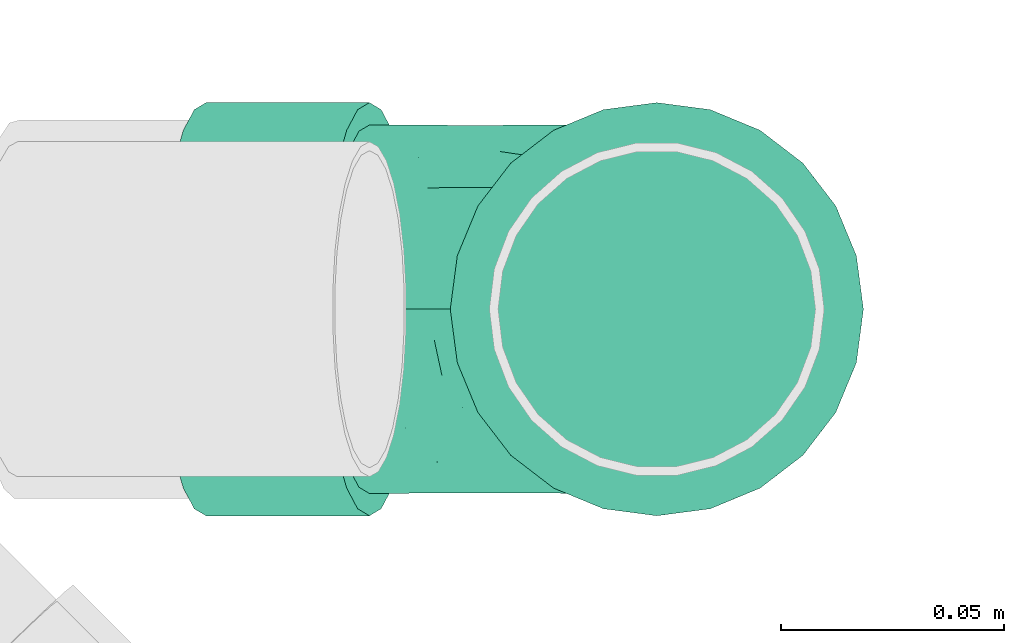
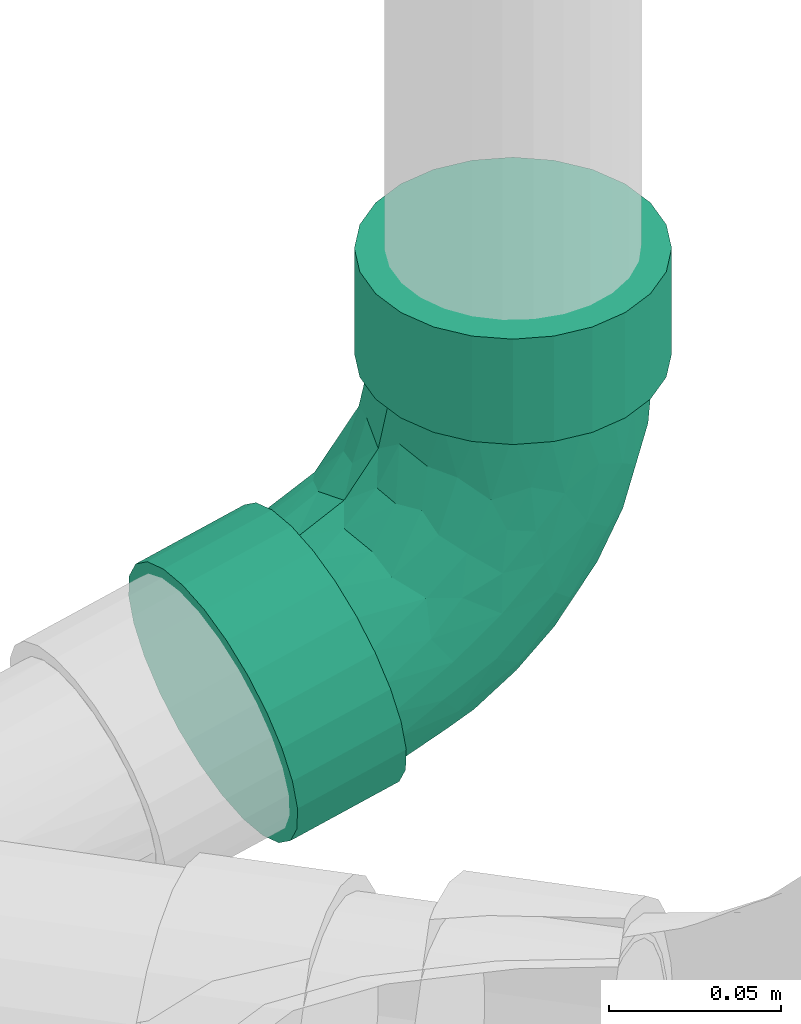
# One storey, part 65 of 83: 1 flow fitting.
"""IFC2X3 building model written with IfcOpenShell, lengths in millimetres."""

import ifcopenshell
import ifcopenshell.guid

model = None  # the IFC model being written
_history = None  # IfcOwnerHistory: only IFC2X3 demands one
_inside = {}  # id of a spatial element -> (the spatial element, [elements in it])
_under = {}  # id of a project, library or spatial element -> (it, [spatial elements below it])
_declared = {}  # id of a project -> (the project, [libraries it declares])
_typed = {}  # id of a type object -> (the type object, [elements of that type])
_made_of = {}  # id of a material, layer set ... -> (it, [elements and type objects made of it])


def new_model(schema):
    """Start an empty IFC model of exactly this schema.

    Asked for "IFC4X3", IfcOpenShell would pick the latest addendum, in which some entities
    have other attributes; the version numbers below select the first issue.
    IFC2X3 requires an IfcOwnerHistory on every rooted entity: one is made here for all.
    """
    global model, _history
    if schema == "IFC4X3":
        model = ifcopenshell.file(schema_version=(4, 3, 0, 0))
    else:
        model = ifcopenshell.file(schema=schema)
    _inside.clear()
    _under.clear()
    _declared.clear()
    _typed.clear()
    _made_of.clear()
    _history = None
    if model.schema == "IFC2X3":
        org = make("IfcOrganization", Name="unknown")
        user = make(
            "IfcPersonAndOrganization",
            ThePerson=make("IfcPerson", FamilyName="unknown"),
            TheOrganization=org,
        )
        app = make(
            "IfcApplication",
            ApplicationDeveloper=org,
            Version="unknown",
            ApplicationFullName="unknown",
            ApplicationIdentifier="unknown",
        )
        _history = make(
            "IfcOwnerHistory",
            OwningUser=user,
            OwningApplication=app,
            ChangeAction="ADDED",
            CreationDate=0,
        )
    return model


def make(cls, **values):
    """One entity of the class cls with the attributes given. An attribute that is None is left unset."""
    return model.create_entity(
        cls, **{name: value for name, value in values.items() if value is not None}
    )


def entity(cls, *values):
    """Any entity or typed value of the class cls, its attributes in the order of the schema. None: left unset."""
    e = model.create_entity(cls)
    for i, value in enumerate(values):
        if value is not None:
            e[i] = value
    return e


def rooted(cls, **values):
    """An entity with a GlobalId (a new one), such as an element, a storey or a relation."""
    return make(cls, GlobalId=ifcopenshell.guid.new(), OwnerHistory=_history, **values)


def si_unit(unit_type, name, prefix=None):
    """IfcSIUnit, for example si_unit("LENGTHUNIT", "METRE", prefix="MILLI")."""
    return make("IfcSIUnit", UnitType=unit_type, Prefix=prefix, Name=name)


def converted_unit(unit_type, name, factor, base, dimensions=None, offset=None):
    """IfcConversionBasedUnit, such as the inch: factor (a typed value) times the base unit."""
    return make(
        "IfcConversionBasedUnit"
        if offset is None
        else "IfcConversionBasedUnitWithOffset",
        ConversionOffset=offset,
        Dimensions=None
        if dimensions is None
        else entity("IfcDimensionalExponents", *dimensions),
        UnitType=unit_type,
        Name=name,
        ConversionFactor=make(
            "IfcMeasureWithUnit", ValueComponent=factor, UnitComponent=base
        ),
    )


def derived_unit(unit_type, elements):
    """IfcDerivedUnit: a product of units, each with its exponent."""
    return make(
        "IfcDerivedUnit",
        Elements=[
            make("IfcDerivedUnitElement", Unit=unit, Exponent=power)
            for unit, power in elements
        ],
        UnitType=unit_type,
    )


def assignment(units):
    """IfcUnitAssignment: the units of a project."""
    return None if units is None else make("IfcUnitAssignment", Units=units)


def point(xyz):
    """IfcCartesianPoint."""
    return None if xyz is None else make("IfcCartesianPoint", Coordinates=xyz)


def direction(xyz):
    """IfcDirection."""
    return None if xyz is None else make("IfcDirection", DirectionRatios=xyz)


def frame(location, z_axis=None, x_axis=None):
    """IfcAxis2Placement3D, a coordinate frame: its origin and axes. An axis left out is left unset."""
    return make(
        "IfcAxis2Placement3D",
        Location=point(location),
        Axis=direction(z_axis),
        RefDirection=direction(x_axis),
    )


def origin_with_axes():
    """The frame at (0, 0, 0) with the z axis (0, 0, 1) and the x axis (1, 0, 0) written out."""
    return frame((0.0, 0.0, 0.0), z_axis=(0.0, 0.0, 1.0), x_axis=(1.0, 0.0, 0.0))


def place(relative_to, where):
    """IfcLocalPlacement: puts the frame where relative to a parent placement (None: the world)."""
    return make(
        "IfcLocalPlacement", PlacementRelTo=relative_to, RelativePlacement=where
    )


def context(
    kind, dimensions, precision=None, world=None, true_north=None, identifier=None
):
    """IfcGeometricRepresentationContext, for example the 3D "Model" context."""
    return make(
        "IfcGeometricRepresentationContext",
        ContextIdentifier=identifier,
        ContextType=kind,
        CoordinateSpaceDimension=dimensions,
        Precision=precision,
        WorldCoordinateSystem=world,
        TrueNorth=true_north,
    )


def subcontext(parent, identifier, kind, view, scale=None):
    """IfcGeometricRepresentationSubContext, for example "Body" below "Model"."""
    return make(
        "IfcGeometricRepresentationSubContext",
        ContextIdentifier=identifier,
        ContextType=kind,
        ParentContext=parent,
        TargetScale=scale,
        TargetView=view,
    )


def project(units=None, contexts=None):
    """IfcProject with its units and contexts."""
    return rooted(
        "IfcProject",
        Name="project",
        RepresentationContexts=contexts,
        UnitsInContext=assignment(units),
    )


def spatial(cls, under=None, at=None, **own):
    """A site, building, storey or space (cls), placed at a placement, below another one or the project."""
    s = rooted(cls, ObjectPlacement=at, **own)
    if under is not None:
        _under.setdefault(under.id(), (under, []))[1].append(s)
    return s


def faces_of(points, faces, orient=None, outer=None):
    """IfcFace entities. A face is a list of loops; a loop is a list of indices into points, from 0.

    orient and outer hold one flag for each loop. By default every Orientation is true, the
    first loop of a face is its IfcFaceOuterBound and the others are IfcFaceBound.
    """
    made = []
    for i, loops in enumerate(faces):
        bounds = []
        for j, loop in enumerate(loops):
            is_outer = j == 0 if outer is None else outer[i][j]
            bounds.append(
                make(
                    "IfcFaceOuterBound" if is_outer else "IfcFaceBound",
                    Bound=make("IfcPolyLoop", Polygon=[points[k] for k in loop]),
                    Orientation=True if orient is None else orient[i][j],
                )
            )
        made.append(make("IfcFace", Bounds=bounds))
    return made


def open_shell(faces, orient=None, outer=None):
    """The faces of one IfcOpenShell. surface_model builds it on its shared points."""
    return ("IfcOpenShell", faces, orient, outer)


def surface_model(cls, points, shells):
    """IfcFaceBasedSurfaceModel or IfcShellBasedSurfaceModel (cls): surfaces that need not close."""
    shared = [point(p) for p in points]
    made = [make(c, CfsFaces=faces_of(shared, fs, o, b)) for c, fs, o, b in shells]
    if cls == "IfcFaceBasedSurfaceModel":
        return make(cls, FbsmFaces=made)
    return make(cls, SbsmBoundary=made)


def shape(context_of_items, identifier, shape_type, items):
    """IfcShapeRepresentation: the items that make up one representation, for example the "Body"."""
    return make(
        "IfcShapeRepresentation",
        ContextOfItems=context_of_items,
        RepresentationIdentifier=identifier,
        RepresentationType=shape_type,
        Items=items,
    )


def source(mapping_origin, context_of_items, identifier, shape_type, items):
    """IfcRepresentationMap: a shape defined once, which mapped items show again and again."""
    return make(
        "IfcRepresentationMap",
        MappingOrigin=mapping_origin,
        MappedRepresentation=shape(context_of_items, identifier, shape_type, items),
    )


def transform(
    local_origin,
    x_axis=None,
    y_axis=None,
    z_axis=None,
    scale=None,
    scale2=None,
    scale3=None,
    uniform=True,
):
    """IfcCartesianTransformationOperator3D, or its non-uniform kind. x_axis, y_axis, z_axis: its Axis1, 2, 3."""
    if uniform:
        return make(
            "IfcCartesianTransformationOperator3D",
            Axis1=direction(x_axis),
            Axis2=direction(y_axis),
            LocalOrigin=point(local_origin),
            Scale=scale,
            Axis3=direction(z_axis),
        )
    return make(
        "IfcCartesianTransformationOperator3DnonUniform",
        Axis1=direction(x_axis),
        Axis2=direction(y_axis),
        LocalOrigin=point(local_origin),
        Scale=scale,
        Axis3=direction(z_axis),
        Scale2=scale2,
        Scale3=scale3,
    )


def mapped(mapping_source, mapping_target):
    """IfcMappedItem: shows the shape of a source again, moved by a transform."""
    return make(
        "IfcMappedItem", MappingSource=mapping_source, MappingTarget=mapping_target
    )


def made_of(thing, what):
    """Note that an element or type object is made of a material, layer set ...; save() writes the relation."""
    if what is not None:
        _made_of.setdefault(what.id(), (what, []))[1].append(thing)
    return thing


def type_object(cls, material=None, **own):
    """A type object (cls), such as IfcWallType, which elements share."""
    return made_of(rooted(cls, **own), material)


def element(
    cls,
    number,
    at=None,
    inside=None,
    cuts=None,
    type_object=None,
    material=None,
    context=None,
    identifier="Body",
    shape_type=None,
    held_by="IfcProductDefinitionShape",
    body=None,
    shapes=None,
    **own,
):
    """One element of the class cls, such as IfcWall. Its Tag is "e" and its number.

    at: its placement. inside: the storey or other place that contains it. cuts: it is an
    opening in that element (IfcRelVoidsElement). A single representation is given by context,
    identifier, shape_type and body (its items); several are given by shapes. held_by: the class
    of the entity that holds the representations. save() writes the other relations.
    """
    e = rooted(cls, Tag="e%d" % number, ObjectPlacement=at, **own)
    if body is not None:
        shapes = [shape(context, identifier, shape_type, body)]
    if shapes is not None:
        e.Representation = make(held_by, Representations=shapes)
    if inside is not None:
        _inside.setdefault(inside.id(), (inside, []))[1].append(e)
    if cuts is not None:
        rooted(
            "IfcRelVoidsElement", RelatingBuildingElement=cuts, RelatedOpeningElement=e
        )
    if type_object is not None:
        _typed.setdefault(type_object.id(), (type_object, []))[1].append(e)
    return made_of(e, material)


def aggregate(whole, parts):
    """IfcRelAggregates: a whole, such as a stair, and the parts it consists of."""
    return rooted("IfcRelAggregates", RelatingObject=whole, RelatedObjects=parts)


def save(model, path):
    """Write the relations noted so far, then the file.

    IfcRelAggregates (storeys below a building ...), IfcRelContainedInSpatialStructure (elements
    in a storey), IfcRelDefinesByType, IfcRelAssociatesMaterial and IfcRelDeclares: one each for
    every whole, place, type object, material and project.
    """
    for whole, parts in _under.values():
        aggregate(whole, parts)
    for where, things in _inside.values():
        rooted(
            "IfcRelContainedInSpatialStructure",
            RelatedElements=things,
            RelatingStructure=where,
        )
    for kind, things in _typed.values():
        rooted("IfcRelDefinesByType", RelatedObjects=things, RelatingType=kind)
    for what, things in _made_of.values():
        rooted("IfcRelAssociatesMaterial", RelatedObjects=things, RelatingMaterial=what)
    for by, libraries in _declared.values():
        rooted("IfcRelDeclares", RelatingContext=by, RelatedDefinitions=libraries)
    model.write(path)


model = new_model("IFC2X3")

# Units and contexts
model_context = context("Model", 3, precision=0.01, world=frame((0.0, 4.29681676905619e-09, 0.0)), true_north=direction((4.01073788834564e-13, 1.0)))
plan_context = context("Plan", 3, precision=0.01, world=frame((0.0, 4.29681676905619e-09, 0.0)), true_north=direction((4.01073788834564e-13, 1.0)))
body_context = subcontext(model_context, "Body", "Model", "MODEL_VIEW")
ifc_project = project(units=[converted_unit("PLANEANGLEUNIT", "DEGREE", entity("IfcPositiveLengthMeasure", 0.0174532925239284), si_unit("PLANEANGLEUNIT", "RADIAN"), dimensions=[0, 0, 0, 0, 0, 0, 0]), si_unit("AREAUNIT", "SQUARE_METRE"), si_unit("LENGTHUNIT", "METRE", prefix="MILLI"), si_unit("MASSUNIT", "GRAM", prefix="KILO"), si_unit("POWERUNIT", "WATT"), si_unit("PRESSUREUNIT", "PASCAL"), si_unit("FORCEUNIT", "NEWTON", prefix="KILO"), si_unit("ELECTRICVOLTAGEUNIT", "VOLT"), si_unit("ELECTRICCURRENTUNIT", "AMPERE"), si_unit("THERMODYNAMICTEMPERATUREUNIT", "DEGREE_CELSIUS"), si_unit("TIMEUNIT", "SECOND"), si_unit("VOLUMEUNIT", "CUBIC_METRE"), derived_unit("LINEARVELOCITYUNIT", [(si_unit("LENGTHUNIT", "METRE"), 1), (si_unit("TIMEUNIT", "SECOND"), -1)]), derived_unit("VOLUMETRICFLOWRATEUNIT", [(si_unit("VOLUMEUNIT", "CUBIC_METRE"), 1), (si_unit("TIMEUNIT", "SECOND"), -1)]), derived_unit("THERMALTRANSMITTANCEUNIT", [(si_unit("POWERUNIT", "WATT"), 1), (si_unit("THERMODYNAMICTEMPERATUREUNIT", "KELVIN"), -1), (si_unit("AREAUNIT", "SQUARE_METRE"), -1)]), derived_unit("SOUNDPRESSUREUNIT", [(si_unit("PRESSUREUNIT", "PASCAL"), 1)])], contexts=[model_context, plan_context])

# Site, building, storey
site_placement = place(None, frame((0.0, -4.29681676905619e-09, 0.0), z_axis=(0.0, 0.0, 1.0), x_axis=(1.0, 0.0, 0.0)))
site = spatial("IfcSite", under=ifc_project, at=site_placement, Name="ENGM", CompositionType="ELEMENT")
building_placement = place(site_placement, frame((0.0, 4.29681676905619e-09, 0.0), z_axis=(0.0, 0.0, 1.0), x_axis=(1.0, 0.0, 0.0)))
building = spatial("IfcBuilding", under=site, at=building_placement, Name="TI", CompositionType="ELEMENT")
storey_placement = place(building_placement, frame((0.0, 0.0, 204000.0), z_axis=(0.0, 0.0, 1.0), x_axis=(1.0, 0.0, 0.0)))
storey = spatial("IfcBuildingStorey", under=building, at=storey_placement, Name="Nivå D", CompositionType="ELEMENT", Elevation=204000.0)

# Flow fitting
pipe_fitting_type = type_object("IfcPipeFittingType", Name="magi_sewer_bend_001", PredefinedType="BEND")
shared_shape = source(origin_with_axes(), body_context, "Body", "SurfaceModel", [
    surface_model("IfcShellBasedSurfaceModel", [(-103.47293, -44.67407, -11.97038), (-103.47293, -11.97038, -44.67407), (-103.47293, -23.125, -40.05367), (-103.47293, -32.70369, -32.70369), (-103.47293, 0.0, -46.25), (-103.47293, -40.05367, -23.125), (-103.47293, -46.25, 0.0), (-103.47293, 11.97038, -44.67407), (-103.47293, 32.70369, -32.70369), (-103.47293, 23.125, -40.05367), (-103.47293, 44.67407, -11.97038), (-103.47293, 40.05367, -23.125), (-103.47293, -32.70369, 32.70369), (-103.47293, -44.67407, 11.97038), (-103.47293, -40.05367, 23.125), (-103.47293, 40.05367, 23.125), (-103.47293, -23.125, 40.05367), (-103.47293, -11.97038, 44.67407), (-103.47293, 0.0, 46.25), (-103.47293, 11.97038, 44.67407), (-103.47293, 44.67407, 11.97038), (-103.47293, 46.25, 0.0), (-103.47293, 23.125, 40.05367), (-103.47293, 32.70369, 32.70369), (-65.97293, 0.0, 46.25), (-65.97293, -11.97038, 44.67407), (-65.97293, -23.125, 40.05367), (-65.97293, -32.70369, 32.70369), (-65.97293, -40.05367, 23.125), (-65.97293, -44.67407, 11.97038), (-65.97293, 40.05367, 23.125), (-65.97293, -44.67407, -11.97038), (-65.97293, 23.125, 40.05367), (-65.97293, 32.70369, 32.70369), (-65.97293, 11.97038, 44.67407), (-65.97293, 44.67407, 11.97038), (-65.97293, 44.67407, -11.97038), (-65.97293, 46.25, 0.0), (-65.97293, -32.70369, -32.70369), (-65.97293, -40.05367, -23.125), (-65.97293, -23.125, -40.05367), (-65.97293, -11.97038, -44.67407), (-65.97293, 11.97038, -44.67407), (-65.97293, 32.70369, -32.70369), (-65.97293, 40.05367, -23.125), (-65.97293, 23.125, -40.05367), (-65.97293, 0.0, -46.25), (-65.97293, -46.25, 0.0), (-20.82656, 110.76404, 11.97038), (-16.31926, 109.74801, 23.125), (-9.14919, 108.13173, 32.70369), (11.07661, 103.57242, 44.67407), (-22.36391, 111.1106, 0.0), (0.19503, 106.02535, 40.05367), (22.75397, 100.9401, 46.25), (-16.31926, 109.74801, -23.125), (-20.82656, 110.76404, -11.97038), (-9.14919, 108.13173, -32.70369), (11.07661, 103.57242, -44.67407), (0.19503, 106.02535, -40.05367), (34.43134, 98.30778, 44.67407), (45.31291, 95.85485, 40.05367), (54.65713, 93.74847, 32.70369), (61.82721, 92.13219, 23.125), (66.3345, 91.11615, 11.97038), (67.87186, 90.7696, 0.0), (66.3345, 91.11615, -11.97038), (34.43134, 98.30778, -44.67407), (22.75397, 100.9401, -46.25), (45.31291, 95.85485, -40.05367), (54.65713, 93.74847, -32.70369), (61.82721, 92.13219, -23.125), (59.62551, 54.18753, 0.0), (58.08815, 54.53408, 11.97038), (53.58085, 55.55012, 23.125), (58.08815, 54.53408, -11.97038), (46.41078, 57.1664, 32.70369), (37.06656, 59.27278, 40.05367), (26.18499, 61.72571, 44.67407), (-29.07291, 74.18198, 11.97038), (37.06656, 59.27278, -40.05367), (2.83025, 66.99035, 44.67407), (53.58085, 55.55012, -23.125), (46.41078, 57.1664, -32.70369), (26.18499, 61.72571, -44.67407), (2.83025, 66.99035, -44.67407), (14.50762, 64.35803, -46.25), (-17.39554, 71.54966, 32.70369), (-8.05132, 69.44328, 40.05367), (-24.56561, 73.16594, 23.125), (-17.39554, 71.54966, -32.70369), (-8.05132, 69.44328, -40.05367), (-24.56561, 73.16594, -23.125), (-30.61026, 74.52853, 0.0), (-29.07291, 74.18198, -11.97038), (14.50762, 64.35803, 46.25), (-65.97293, 10.67629, -39.84444), (-65.97293, 0.0, -41.25), (-65.97293, 35.72355, -20.625), (-65.97293, 20.625, -35.72355), (-65.97293, -10.67629, -39.84444), (-65.97293, 29.16816, -29.16816), (-65.97293, 39.84444, -10.67629), (-65.97293, -29.16816, -29.16816), (-65.97293, -35.72355, -20.625), (-65.97293, -20.625, -35.72355), (-65.97293, -39.84444, -10.67629), (-65.97293, -41.25, 0.0), (-65.97293, -39.84444, 10.67629), (-65.97293, 41.25, 0.0), (-65.97293, 35.72355, 20.625), (-65.97293, 39.84444, 10.67629), (-65.97293, 10.67629, 39.84444), (-65.97293, 20.625, 35.72355), (-65.97293, 29.16816, 29.16816), (-65.97293, -35.72355, 20.625), (-65.97293, -29.16816, 29.16816), (-65.97293, -10.67629, 39.84444), (-65.97293, -20.625, 35.72355), (-65.97293, 0.0, 41.25), (4.09267, 66.70578, -39.84444), (34.62776, 59.82254, -35.72355), (14.50762, 64.35803, -41.25), (-20.34148, 72.21373, -20.625), (-5.61252, 68.89352, -35.72355), (53.37674, 55.59613, -10.67629), (-13.94655, 70.77218, -29.16816), (-24.3615, 73.11993, -10.67629), (49.35672, 56.50233, -20.625), (42.96179, 57.94387, -29.16816), (24.92257, 62.01029, -39.84444), (53.37674, 55.59613, 10.67629), (54.7479, 55.28705, 0.0), (-25.73265, 73.42902, 0.0), (-24.3615, 73.11993, 10.67629), (-20.34148, 72.21373, 20.625), (24.92257, 62.01029, 39.84444), (-5.61252, 68.89352, 35.72355), (4.09267, 66.70578, 39.84444), (-13.94655, 70.77218, 29.16816), (14.50762, 64.35803, 41.25), (42.96179, 57.94387, 29.16816), (49.35672, 56.50233, 20.625), (34.62776, 59.82254, 35.72355), (-1.25894, -22.05917, 8.00651), (-15.69238, -28.87814, 11.19589), (-17.68721, -30.21876, 0.0), (-32.98682, -36.77271, 0.0), (-41.89577, -36.53777, 13.58634), (-45.59727, -38.48436, 0.0), (11.67437, -6.20011, 21.201), (17.70635, 8.65851, 29.23513), (-1.1315, -9.3967, 28.34405), (-41.37636, -24.13717, 31.24029), (-20.3582, -20.03376, 28.60313), (-16.68498, -12.30898, 33.2924), (-49.15793, -32.45377, 23.82051), (-29.00026, -28.80033, 22.17818), (-43.32937, 36.17877, 27.28096), (-49.43742, -15.87493, 37.46771), (-42.57818, -4.62164, 40.52343), (-6.07988, -19.87772, 19.94034), (-47.92811, 26.21688, 33.97408), (-30.17279, 58.64502, 11.95333), (-28.0687, 55.67859, 20.02018), (14.76187, 42.80553, 40.56885), (1.98407, 40.57773, 41.16463), (-27.05807, 35.25731, 35.32917), (-46.65595, 5.75615, 41.11273), (-25.2422, 19.99904, 40.48671), (-29.60307, 9.20666, 41.24441), (-14.245, 17.81356, 41.24871), (15.83109, 21.59685, 36.35751), (0.68528, 17.58824, 39.88012), (-1.72878, 1.82069, 35.7188), (-38.1523, 47.70994, 16.15696), (-39.7686, 49.73114, 7.60921), (-50.57442, 42.33041, 11.95333), (-25.15098, 51.15292, 27.17806), (-48.20198, 39.55003, 20.10504), (-55.23334, 15.53516, 38.54966), (43.12647, 24.09294, 0.0), (43.87373, 30.50821, 13.35124), (31.3035, 8.24535, 10.54897), (31.91867, 33.26054, 31.11842), (31.02154, 15.93336, 21.6051), (41.23254, 37.18781, 23.51923), (25.46742, 41.99728, 37.34965), (47.56929, 36.01832, 0.0), (-29.53269, -12.26716, 36.59717), (-5.73116, 49.51558, 38.86631), (-14.64044, 53.3885, 33.91034), (-48.04197, 45.35107, 0.0), (-33.6764, 56.83881, 0.0), (-12.50098, 31.8021, 40.2972), (-18.31503, 2.32105, 39.81827), (-40.52354, 17.95076, 39.10957), (-29.51406, 26.13631, 38.2786), (10.61149, -13.26981, 0.0), (23.61058, -2.87481, 0.0), (10.2331, -12.79662, 11.82189), (-15.72209, -4.39571, 37.17381), (33.36853, 10.60907, 0.0), (-2.38759, -23.66481, 0.0), (-44.05874, 27.1896, -34.23831), (16.25629, 47.13382, -40.64964), (3.40991, 43.72176, -41.1396), (-30.00081, -1.61877, -40.25901), (-49.55487, -5.49352, -40.64964), (-43.40138, 6.28809, -41.1396), (30.95225, 31.00457, -30.96288), (-21.20513, -12.10181, -34.79237), (-37.05212, -23.37661, -30.96288), (-44.21887, -15.32798, -37.2512), (-16.83541, 48.95933, -34.23831), (-53.2363, 42.54115, -7.51114), (43.82596, 30.3985, -13.34008), (-39.84788, 49.83029, -6.89858), (-2.14704, -17.99945, -19.11436), (9.83691, -12.30119, -13.76569), (-12.90055, -27.78004, -10.51948), (-49.95239, 34.07952, -26.63524), (9.615, -6.99547, -22.38927), (-4.67318, -12.18439, -27.99561), (12.22425, 3.00669, -29.32766), (-47.66127, 16.37359, -38.84288), (-39.29184, -36.06847, -13.34008), (40.85102, 36.1425, -23.43132), (28.6234, 12.18813, -21.23345), (-5.49195, 50.0952, -38.84288), (-15.73239, 39.02523, -37.99491), (-44.24105, -31.90323, -23.43132), (8.1764, 28.91047, -40.25901), (-8.23418, 8.84829, -39.7324), (-8.00869, 27.47057, -41.16958), (-18.18415, -25.24255, -21.23345), (16.46864, 18.02485, -34.79237), (24.67663, 39.76581, -37.2512), (-32.6632, 15.64538, -40.50453), (-21.10821, 13.115, -41.24981), (-29.79302, 61.28809, -7.51114), (-0.85933, 1.0746, -35.04456), (-22.26066, 56.22383, -26.63524), (-27.28559, 58.24877, -18.55732), (29.00363, 5.38623, -10.69279), (-50.82277, 39.42675, -18.55732), (-33.17347, 41.48385, -28.33083), (-38.7445, 43.41927, -22.03859), (-28.38428, 35.4949, -34.69379), (-20.53901, -20.83106, -27.90539), (-38.46547, 48.10157, -14.92421), (-34.61037, 23.92904, -37.99491), (22.65722, 16.22421, -30.13354), (-21.21997, 26.53585, -39.79956)], [open_shell([[[0, 1, 2]], [[0, 2, 3]], [[1, 0, 4]], [[0, 3, 5]], [[4, 0, 6]], [[7, 8, 9]], [[8, 7, 4]], [[8, 10, 11]], [[10, 8, 4]], [[4, 6, 10]], [[6, 12, 10]], [[13, 14, 12]], [[10, 12, 15]], [[16, 17, 18]], [[16, 18, 12]], [[19, 12, 18]], [[10, 20, 21]], [[15, 20, 10]], [[15, 22, 23]], [[22, 15, 19]], [[12, 19, 15]], [[6, 13, 12]], [[24, 25, 26]], [[24, 26, 27]], [[27, 28, 29]], [[24, 27, 30]], [[27, 31, 30]], [[32, 30, 33]], [[30, 32, 34]], [[35, 36, 37]], [[30, 34, 24]], [[35, 30, 36]], [[27, 29, 31]], [[36, 30, 31]], [[38, 31, 39]], [[40, 41, 31]], [[40, 31, 38]], [[42, 31, 41]], [[36, 43, 44]], [[36, 31, 43]], [[43, 42, 45]], [[31, 42, 43]], [[41, 46, 42]], [[31, 29, 47]], [[36, 10, 37]], [[44, 11, 36]], [[9, 43, 45]], [[44, 43, 8]], [[7, 45, 42]], [[36, 11, 10]], [[10, 21, 37]], [[7, 9, 45]], [[8, 43, 9]], [[8, 11, 44]], [[4, 7, 42]], [[42, 46, 4]], [[46, 41, 1]], [[5, 39, 31]], [[39, 3, 38]], [[0, 31, 47]], [[1, 40, 2]], [[40, 1, 41]], [[40, 38, 2]], [[38, 3, 2]], [[39, 5, 3]], [[0, 5, 31]], [[47, 6, 0]], [[46, 1, 4]], [[29, 13, 47]], [[28, 14, 29]], [[16, 27, 26]], [[28, 27, 12]], [[17, 26, 25]], [[29, 14, 13]], [[13, 6, 47]], [[17, 16, 26]], [[12, 27, 16]], [[12, 14, 28]], [[18, 17, 25]], [[25, 24, 18]], [[33, 22, 32]], [[35, 15, 30]], [[33, 30, 23]], [[20, 35, 37]], [[32, 19, 34]], [[32, 22, 19]], [[19, 18, 34]], [[33, 23, 22]], [[30, 15, 23]], [[20, 15, 35]], [[37, 21, 20]], [[34, 18, 24]], [[48, 49, 50]], [[48, 50, 51]], [[48, 51, 52]], [[51, 50, 53]], [[52, 51, 54]], [[52, 55, 56]], [[55, 52, 57]], [[57, 58, 59]], [[58, 57, 52]], [[52, 54, 58]], [[54, 60, 58]], [[60, 61, 62]], [[60, 62, 63]], [[63, 64, 65]], [[60, 63, 66]], [[66, 63, 65]], [[58, 67, 68]], [[69, 67, 58]], [[70, 66, 71]], [[66, 70, 69]], [[60, 66, 69]], [[69, 58, 60]], [[72, 73, 74]], [[75, 72, 74]], [[76, 77, 78]], [[79, 80, 74]], [[76, 81, 74]], [[82, 80, 83]], [[80, 82, 75]], [[84, 85, 86]], [[80, 75, 74]], [[84, 80, 85]], [[81, 76, 78]], [[74, 81, 79]], [[87, 81, 88]], [[87, 89, 79]], [[87, 79, 81]], [[80, 79, 85]], [[85, 90, 91]], [[85, 79, 90]], [[92, 93, 94]], [[92, 90, 79]], [[93, 92, 79]], [[81, 78, 95]], [[85, 58, 86]], [[91, 59, 85]], [[55, 90, 92]], [[91, 90, 57]], [[56, 92, 94]], [[85, 59, 58]], [[58, 68, 86]], [[56, 55, 92]], [[57, 90, 55]], [[57, 59, 91]], [[52, 56, 94]], [[94, 93, 52]], [[93, 79, 48]], [[53, 88, 81]], [[88, 50, 87]], [[51, 81, 95]], [[48, 89, 49]], [[89, 48, 79]], [[89, 87, 49]], [[87, 50, 49]], [[88, 53, 50]], [[51, 53, 81]], [[95, 54, 51]], [[93, 48, 52]], [[78, 60, 95]], [[77, 61, 78]], [[63, 76, 74]], [[77, 76, 62]], [[64, 74, 73]], [[78, 61, 60]], [[60, 54, 95]], [[64, 63, 74]], [[62, 76, 63]], [[62, 61, 77]], [[65, 64, 73]], [[73, 72, 65]], [[83, 71, 82]], [[84, 69, 80]], [[83, 80, 70]], [[67, 84, 86]], [[82, 66, 75]], [[82, 71, 66]], [[66, 65, 75]], [[83, 70, 71]], [[80, 69, 70]], [[67, 69, 84]], [[86, 68, 67]], [[75, 65, 72]], [[96, 97, 98]], [[99, 96, 98]], [[100, 98, 97]], [[101, 99, 98]], [[102, 98, 100]], [[103, 104, 105]], [[100, 105, 104]], [[104, 106, 100]], [[106, 102, 100]], [[107, 108, 106]], [[109, 102, 106]], [[110, 111, 109]], [[108, 110, 106]], [[112, 113, 114]], [[108, 114, 110]], [[114, 108, 112]], [[115, 116, 108]], [[117, 108, 116]], [[118, 117, 116]], [[117, 112, 108]], [[117, 119, 112]], [[109, 106, 110]], [[120, 121, 122]], [[123, 120, 124]], [[125, 120, 123]], [[123, 124, 126]], [[125, 123, 127]], [[121, 128, 129]], [[121, 130, 122]], [[120, 128, 121]], [[125, 128, 120]], [[125, 131, 132]], [[125, 127, 133]], [[133, 134, 135]], [[136, 133, 135]], [[137, 138, 135]], [[137, 135, 139]], [[140, 135, 138]], [[131, 141, 142]], [[141, 131, 136]], [[141, 136, 143]], [[131, 133, 136]], [[135, 140, 136]], [[133, 131, 125]], [[144, 145, 146]], [[147, 148, 149]], [[150, 151, 152]], [[153, 154, 155]], [[156, 148, 157]], [[158, 110, 114]], [[115, 156, 116]], [[117, 159, 160]], [[154, 161, 152]], [[153, 118, 116]], [[117, 118, 159]], [[161, 157, 145]], [[114, 162, 158]], [[163, 164, 134]], [[165, 140, 166]], [[167, 158, 162]], [[148, 115, 108]], [[162, 114, 113]], [[112, 119, 168]], [[169, 170, 171]], [[172, 173, 174]], [[175, 176, 177]], [[178, 139, 135]], [[109, 111, 177]], [[175, 179, 158]], [[117, 160, 119]], [[112, 180, 113]], [[157, 148, 145]], [[153, 116, 156]], [[181, 182, 183]], [[184, 141, 143]], [[148, 108, 149]], [[183, 182, 185]], [[140, 165, 136]], [[142, 182, 131]], [[166, 140, 138]], [[154, 153, 157]], [[142, 186, 182]], [[151, 184, 172]], [[184, 143, 187]], [[186, 184, 185]], [[182, 188, 131]], [[159, 153, 189]], [[161, 154, 157]], [[167, 190, 191]], [[192, 176, 193]], [[187, 143, 136]], [[193, 163, 133]], [[194, 169, 171]], [[176, 163, 193]], [[164, 163, 175]], [[194, 166, 190]], [[138, 137, 190]], [[178, 175, 158]], [[173, 165, 166]], [[137, 191, 190]], [[190, 166, 138]], [[179, 175, 177]], [[167, 178, 158]], [[186, 142, 141]], [[145, 147, 146]], [[168, 119, 160]], [[195, 160, 189]], [[196, 170, 169]], [[180, 162, 113]], [[162, 196, 197]], [[137, 139, 191]], [[166, 194, 171]], [[173, 166, 171]], [[187, 165, 172]], [[198, 199, 200]], [[144, 198, 200]], [[183, 200, 199]], [[161, 150, 152]], [[160, 195, 170]], [[180, 168, 196]], [[139, 178, 191]], [[167, 191, 178]], [[184, 186, 141]], [[182, 186, 185]], [[201, 189, 155]], [[173, 171, 195]], [[192, 109, 177]], [[163, 176, 175]], [[192, 177, 176]], [[179, 111, 110]], [[111, 179, 177]], [[110, 158, 179]], [[175, 178, 164]], [[163, 134, 133]], [[178, 135, 164]], [[134, 164, 135]], [[165, 187, 136]], [[184, 187, 172]], [[174, 173, 195]], [[165, 173, 172]], [[189, 201, 195]], [[174, 152, 151]], [[190, 167, 194]], [[169, 197, 196]], [[183, 185, 150]], [[183, 202, 181]], [[144, 161, 145]], [[150, 161, 200]], [[183, 150, 200]], [[151, 150, 185]], [[184, 151, 185]], [[174, 151, 172]], [[148, 156, 115]], [[153, 156, 157]], [[153, 159, 118]], [[160, 159, 189]], [[197, 194, 167]], [[170, 196, 168]], [[160, 170, 168]], [[195, 171, 170]], [[194, 197, 169]], [[162, 197, 167]], [[108, 107, 149]], [[188, 182, 181]], [[188, 132, 131]], [[174, 201, 155]], [[168, 180, 112]], [[162, 180, 196]], [[147, 145, 148]], [[203, 144, 146]], [[161, 144, 200]], [[144, 203, 198]], [[189, 153, 155]], [[174, 195, 201]], [[154, 152, 155]], [[174, 155, 152]], [[183, 199, 202]], [[204, 99, 101]], [[205, 206, 122]], [[207, 208, 209]], [[129, 210, 121]], [[211, 212, 213]], [[126, 124, 214]], [[192, 215, 109]], [[216, 181, 202]], [[215, 192, 217]], [[218, 219, 220]], [[98, 221, 101]], [[222, 223, 224]], [[209, 97, 96]], [[209, 96, 225]], [[104, 226, 106]], [[227, 228, 210]], [[226, 149, 106]], [[229, 230, 214]], [[226, 104, 231]], [[232, 233, 234]], [[226, 220, 146]], [[122, 206, 120]], [[104, 103, 231]], [[125, 132, 188]], [[208, 100, 97]], [[231, 235, 226]], [[236, 232, 237]], [[105, 100, 213]], [[192, 193, 217]], [[209, 238, 239]], [[133, 127, 240]], [[224, 223, 241]], [[123, 242, 243]], [[204, 101, 221]], [[199, 219, 244]], [[126, 242, 123]], [[229, 124, 120]], [[216, 227, 128]], [[122, 130, 205]], [[102, 215, 245]], [[212, 103, 105]], [[242, 214, 246]], [[245, 247, 221]], [[121, 210, 237]], [[213, 212, 105]], [[233, 207, 239]], [[207, 209, 239]], [[202, 199, 244]], [[129, 128, 227]], [[130, 121, 237]], [[216, 125, 188]], [[220, 235, 218]], [[216, 188, 181]], [[246, 248, 204]], [[248, 246, 214]], [[125, 216, 128]], [[211, 223, 249]], [[243, 250, 240]], [[225, 251, 238]], [[123, 243, 127]], [[96, 99, 225]], [[229, 120, 206]], [[208, 213, 100]], [[207, 233, 211]], [[236, 237, 210]], [[205, 237, 232]], [[103, 212, 231]], [[231, 212, 249]], [[228, 227, 216]], [[210, 129, 227]], [[99, 204, 225]], [[251, 225, 204]], [[229, 206, 234]], [[214, 124, 229]], [[235, 249, 223]], [[203, 219, 198]], [[245, 221, 98]], [[204, 221, 246]], [[214, 242, 126]], [[247, 243, 242]], [[207, 211, 213]], [[211, 241, 223]], [[241, 236, 224]], [[223, 222, 218]], [[236, 252, 224]], [[236, 241, 233]], [[234, 239, 253]], [[233, 241, 211]], [[234, 233, 239]], [[236, 233, 232]], [[252, 236, 210]], [[222, 228, 219]], [[228, 222, 224]], [[218, 222, 219]], [[102, 245, 98]], [[247, 245, 250]], [[247, 242, 246]], [[250, 217, 240]], [[240, 217, 193]], [[250, 245, 215]], [[133, 240, 193]], [[243, 240, 127]], [[215, 217, 250]], [[109, 215, 102]], [[209, 208, 97]], [[213, 208, 207]], [[237, 205, 130]], [[206, 205, 232]], [[219, 203, 220]], [[223, 218, 235]], [[146, 147, 226]], [[226, 235, 220]], [[234, 253, 230]], [[232, 234, 206]], [[149, 226, 147]], [[149, 107, 106]], [[243, 247, 250]], [[221, 247, 246]], [[244, 219, 228]], [[202, 244, 216]], [[216, 244, 228]], [[230, 248, 214]], [[251, 248, 253]], [[248, 251, 204]], [[238, 251, 253]], [[239, 238, 253]], [[225, 238, 209]], [[234, 230, 229]], [[248, 230, 253]], [[219, 199, 198]], [[231, 249, 235]], [[211, 249, 212]], [[210, 228, 252]], [[228, 224, 252]], [[220, 203, 146]]])]),
])
flow_fitting_placement = place(storey_placement, frame((609125.56432, 692883.6976, 6234.82102), z_axis=(-2.58493941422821e-26, 0.99999999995, -9.9999999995e-06), x_axis=(1.89999999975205e-05, -9.999999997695e-06, -0.9999999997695)))
element("IfcFlowFitting", 1, at=flow_fitting_placement, inside=storey, type_object=pipe_fitting_type, Name="magi_sewer_bend_001", context=body_context, shape_type="MappedRepresentation", body=[
    mapped(shared_shape, transform((0.0, 0.0, 0.0), scale=1.0)),
])

save(model, "model.ifc")
